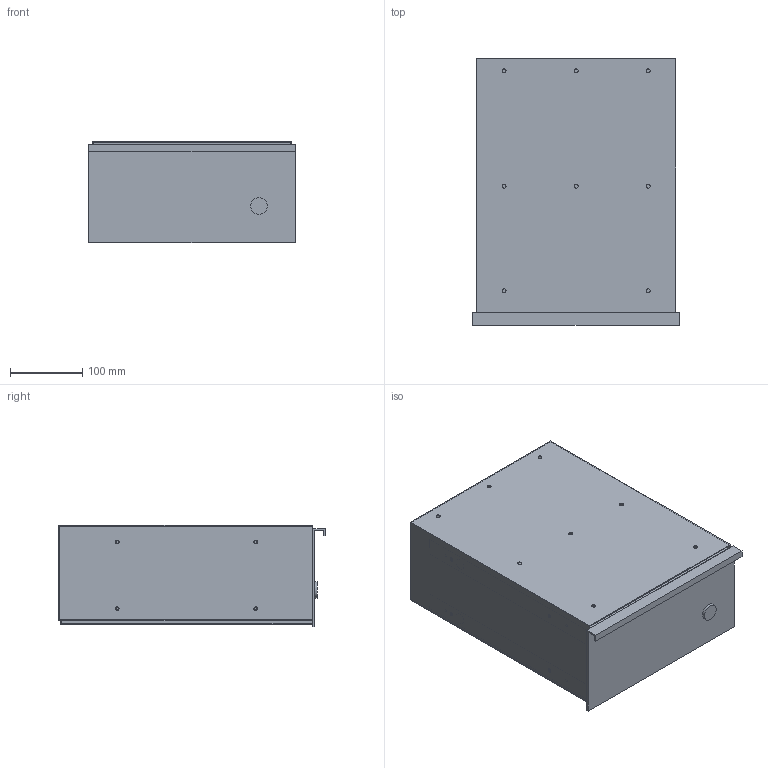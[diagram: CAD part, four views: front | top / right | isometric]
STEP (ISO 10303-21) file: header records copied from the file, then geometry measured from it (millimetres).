
FILE_DESCRIPTION( ( 'STEP AP214' ), '1' );
FILE_NAME( 'C:/Users/KOSH/Desktop/New folder/9309829.stp', '2022-01-27T11:29:30', ( '' ), ( '' ), ' ', 'PARTsolutions', ' ' );
FILE_SCHEMA( ( 'AUTOMOTIVE_DESIGN { 1 0 10303 214 1 1 1 1 }' ) );
Length unit declared in the file: millimetre
Products named in the file (13): 9309829; _&ARTICLENO._3; _bottom box_25; _bottom box duo_1; _cam lock_2; _ka1_310_8; _ka2_310_1_16; _ka3_310_l_12; _ka1_310r_9; _ka2_310_rr_17; _ka3_310_r_13; _tray_1_27; _tray_2_28
Assembly tree (18 placements, depth 2):
  9309829
    _&ARTICLENO._3
    _bottom box_25
    _bottom box duo_1
    _cam lock_2
    _ka1_310_8  x2
    _ka2_310_1_16  x2
    _ka3_310_l_12  x2
    _ka1_310r_9  x2
    _ka2_310_rr_17  x2
    _ka3_310_r_13  x2
    _tray_1_27
    _tray_2_28
Bounding box: 287 x 369.84 x 140.5 mm (x, y, z)
Volume: 1531936.6 mm3; surface area: 1819740.7 mm2
Topology: 18 solids, 18 shells, 671 faces, 1877 edges, 1277 vertices
Faces by surface type: plane 488, cylinder 183
Full cylindrical faces by diameter (mm): 3.5 x28, 4 x12, 4.5 x16, 5 x10, 5.2 x12, 5.5 x8, 5.9 x4, 10 x4, 10.8 x1, 15.5 x4, 18.4 x3, 22.008 x1, 23 x1, 28 x1
Entity records: 17718 total; most frequent: CARTESIAN_POINT 2394, DIRECTION 2310, ORIENTED_EDGE 2250, EDGE_CURVE 1125, LINE 880, VECTOR 880, VERTEX_POINT 799, AXIS2_PLACEMENT_3D 715
